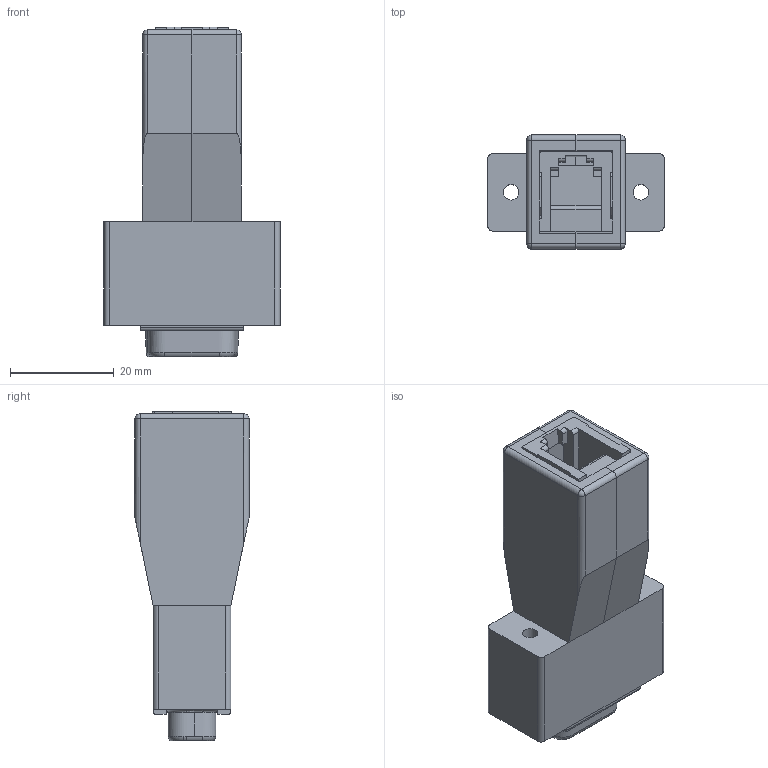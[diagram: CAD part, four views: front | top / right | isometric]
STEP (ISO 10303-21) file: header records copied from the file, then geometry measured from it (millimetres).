
FILE_DESCRIPTION(('FreeCAD Model'),'2;1');
FILE_NAME('Open CASCADE Shape Model','2023-08-01T12:54:45',('Author'),( ''),'Open CASCADE STEP processor 7.5','FreeCAD','Unknown');
FILE_SCHEMA(('AUTOMOTIVE_DESIGN { 1 0 10303 214 1 1 1 1 }'));
Length unit declared in the file: millimetre
Products named in the file (4): ADP_1_2_; TM2RE-0606; K3D-SJ018091-DEU-9PF-F0-V9_JAE Proprietary; Pocket004
Assembly tree (3 placements, depth 2):
  ADP_1_2_
    TM2RE-0606
    K3D-SJ018091-DEU-9PF-F0-V9_JAE Proprietary
    Pocket004
Bounding box: 34 x 22 x 63.6 mm (x, y, z)
Volume: 23331 mm3; surface area: 11846.2 mm2
Topology: 3 solids, 3 shells, 371 faces, 939 edges, 589 vertices
Faces by surface type: plane 205, cylinder 98, bspline 28, cone 18, torus 18, sphere 4
Full cylindrical faces by diameter (mm): 3 x2
Entity records: 28891 total; most frequent: CARTESIAN_POINT 10253, DIRECTION 3417, LINE 2155, VECTOR 2155, ORIENTED_EDGE 1870, PCURVE 1870, DEFINITIONAL_REPRESENTATION 1870, EDGE_CURVE 935
